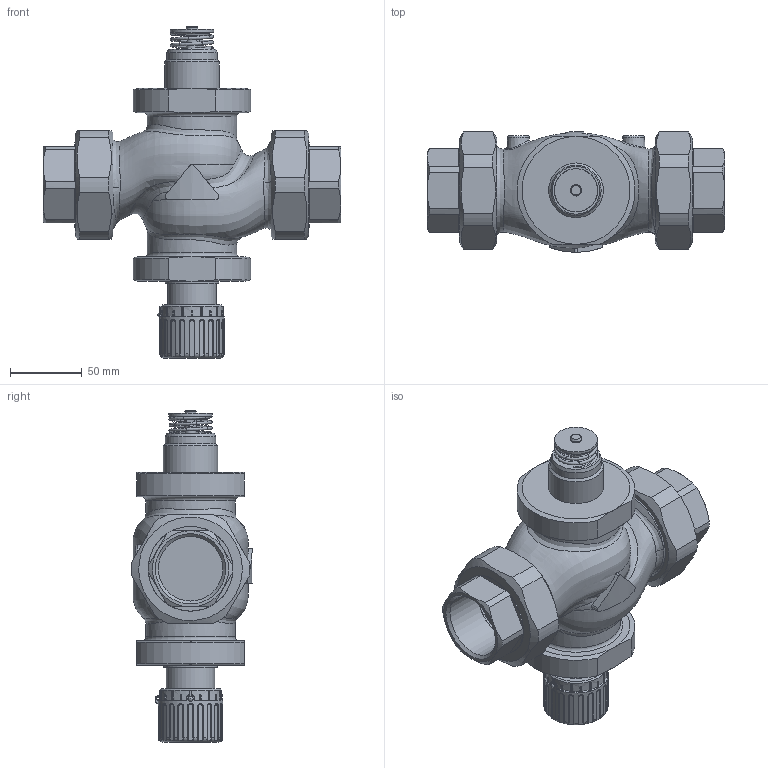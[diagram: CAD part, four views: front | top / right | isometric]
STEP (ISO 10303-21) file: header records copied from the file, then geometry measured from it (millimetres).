
FILE_DESCRIPTION(/* description */ (''),/* implementation_level */ '2;1');
FILE_NAME(/* name */ 'rv122p_dn40_T.stp',/* time_stamp */ '2012-11-05T15:27:46+01:00',/* author */ ('JENIK'),/* organization */ ('LDM'),/* preprocessor_version */ 'ST-DEVELOPER v11',/* originating_system */ 'SIEMENS PLM Software NX 7.0',/* authorisation */ '');
FILE_SCHEMA (('CONFIG_CONTROL_DESIGN'));
Length unit declared in the file: millimetre
Products named in the file (1): jeniA85B0dnu
Bounding box: 207 x 83.98 x 230.8 mm (x, y, z)
Volume: 155179 mm3; surface area: 139762.8 mm2
Topology: 6 solids, 7 shells, 593 faces, 1469 edges, 908 vertices
Faces by surface type: cylinder 208, plane 173, bspline 97, torus 70, cone 44, sphere 1
Full cylindrical faces by diameter (mm): 2 x1, 2.5 x1, 8 x2, 24.5 x1, 30 x1, 33.8 x1, 35 x1, 37 x1, 38 x1, 43 x1, 44.845 x2, 50 x4, 58.8 x2, 59 x2, 62 x4, 62.6 x2, 62.752 x2, 65.71 x2
Entity records: 30516 total; most frequent: CARTESIAN_POINT 17815, ORIENTED_EDGE 2684, DIRECTION 2440, EDGE_CURVE 1342, AXIS2_PLACEMENT_3D 1018, VERTEX_POINT 864, EDGE_LOOP 708, ADVANCED_FACE 591
